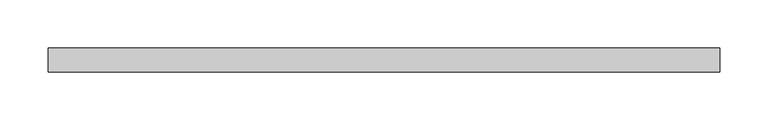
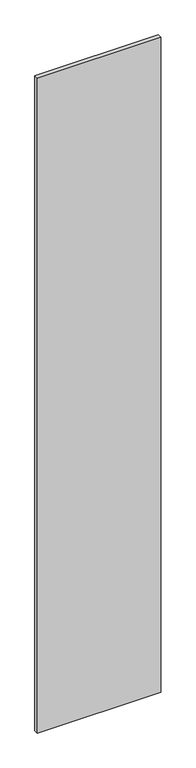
"""IFC4 building model written with IfcOpenShell, lengths in millimetres: plate geometry, Системная панель : ADSK_Cтеклопакет_25."""

from ifc_helpers import new_model, si_unit, origin, origin_with_axes, place, context, project, spatial, polyline, outline, extrude, source, transform, mapped, element, save


def plate_c0ce62cf(model_context):
    return source(origin(), model_context, "Body", "SweptSolid", [
        extrude(outline(polyline([(347.5, -12.5), (-347.5, -12.5), (-347.5, 12.5), (347.5, 12.5), (347.5, -12.5)])), origin_with_axes(), (0.0, 0.0, 1.0), 3900.0),
    ])


if __name__ == "__main__":
    model = new_model("IFC4")
    model_context = context("Model", 3, world=origin())
    ifc_project = project(units=[si_unit("LENGTHUNIT", "METRE", prefix="MILLI")], contexts=[model_context])
    site = spatial("IfcSite", under=ifc_project)
    building = spatial("IfcBuilding", under=site)
    placement = place(None, origin())
    plate_shape = plate_c0ce62cf(model_context)
    element("IfcPlate", 1, ObjectType="Системная панель : ADSK_Cтеклопакет_25", at=placement, inside=building, context=model_context, shape_type="MappedRepresentation", body=[
        mapped(plate_shape, transform((0.0, 0.0, 0.0), x_axis=(1.0, 0.0, 0.0), y_axis=(0.0, 1.0, 0.0), z_axis=(0.0, 0.0, 1.0))),
    ])
    save(model, "model.ifc")
